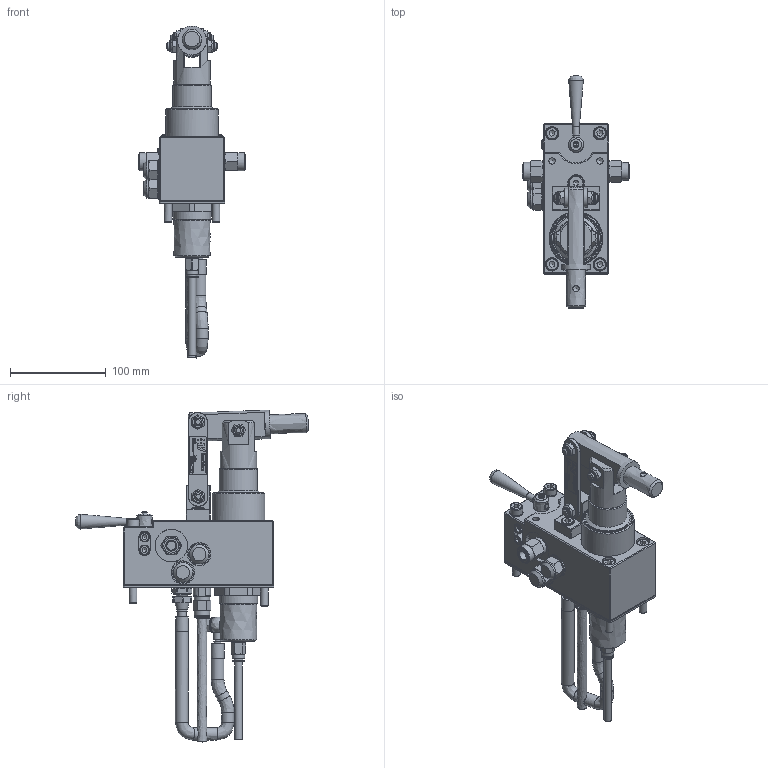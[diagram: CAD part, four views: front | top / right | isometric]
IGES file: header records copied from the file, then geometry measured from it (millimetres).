
Global section: file name: No Iges File Name specified; native system: Autodesk Inventor 2013; preprocessor: AutoDesk Inventor Iges Exporter R2013; author: christian.scardovi; date: 20240328.123930; units: millimetre
Bounding box: 112 x 243.06 x 346.63 mm (x, y, z)
Volume: 1034263.3 mm3; surface area: 181246.6 mm2
Topology: 1 solids, 1 shells, 1568 faces, 3881 edges, 2484 vertices
Faces by surface type: bspline 1568
